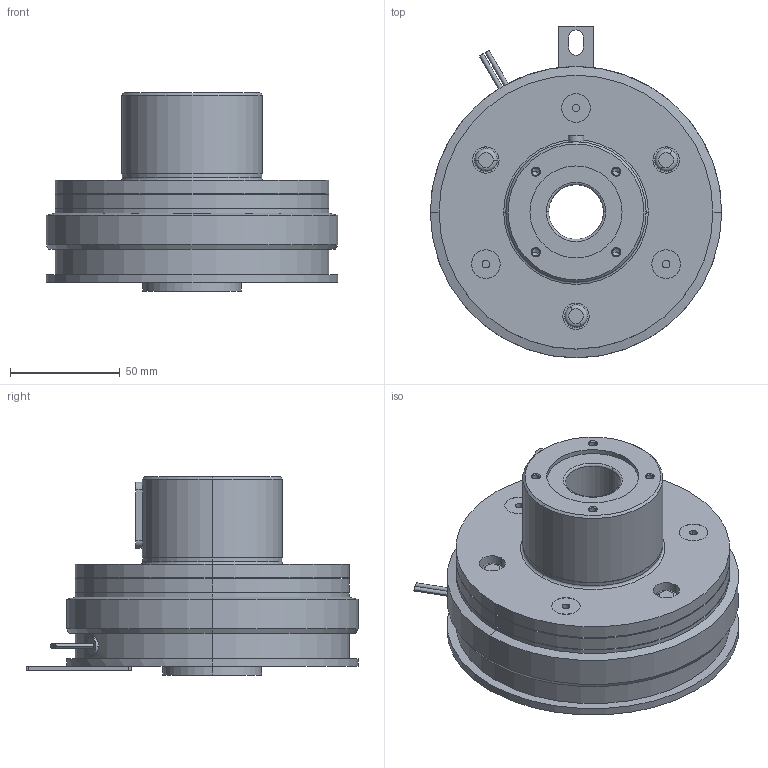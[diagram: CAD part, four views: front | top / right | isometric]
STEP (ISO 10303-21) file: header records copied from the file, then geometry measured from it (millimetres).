
FILE_DESCRIPTION (( 'STEP AP214' ), '1' );
FILE_NAME ('CS-12-35G R25DIN A25JIS.STEP', '2018-02-14T05:25:04', ( 'MIKI' ), ( '' ), 'SwSTEP 2.0', 'SolidWorks 2012', '' );
FILE_SCHEMA (( 'AUTOMOTIVE_DESIGN' ));
Length unit declared in the file: millimetre
Products named in the file (1): CS-12-35G R25DIN A25JIS
Bounding box: 133 x 151.5 x 90.5 mm (x, y, z)
Volume: 664439.2 mm3; surface area: 95523.6 mm2
Topology: 1 solids, 5 shells, 240 faces, 519 edges, 316 vertices
Faces by surface type: cylinder 118, plane 62, cone 44, torus 16
Entity records: 9325 total; most frequent: DIRECTION 1269, CARTESIAN_POINT 1241, ORIENTED_EDGE 1006, AXIS2_PLACEMENT_3D 534, EDGE_CURVE 503, VERTEX_POINT 316, EDGE_LOOP 293, CIRCLE 293
